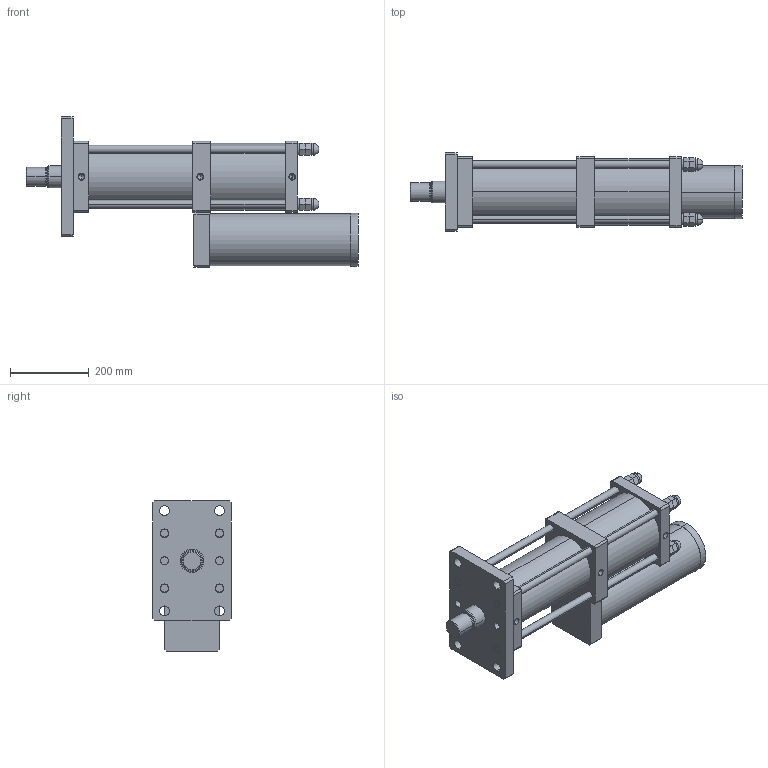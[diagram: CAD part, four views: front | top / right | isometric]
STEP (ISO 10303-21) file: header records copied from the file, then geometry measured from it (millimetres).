
FILE_DESCRIPTION (( 'STEP AP203' ), '1' );
FILE_NAME ('MPT-125-200-10-15T.STEP', '2016-03-12T01:29:12', ( 'WIN' ), ( '' ), 'SwSTEP 2.0', 'SolidWorks 2014', '' );
FILE_SCHEMA (( 'CONFIG_CONTROL_DESIGN' ));
Length unit declared in the file: millimetre
Products named in the file (1): MPT-125-200-10-15T
Bounding box: 845.5 x 200 x 382.5 mm (x, y, z)
Volume: 16583365.5 mm3; surface area: 1283773.7 mm2
Topology: 17 solids, 17 shells, 320 faces, 732 edges, 458 vertices
Faces by surface type: plane 154, cylinder 124, cone 30, sphere 8, torus 4
Entity records: 8963 total; most frequent: DIRECTION 1652, CARTESIAN_POINT 1479, ORIENTED_EDGE 1416, EDGE_CURVE 708, AXIS2_PLACEMENT_3D 623, VERTEX_POINT 450, LINE 406, VECTOR 406
